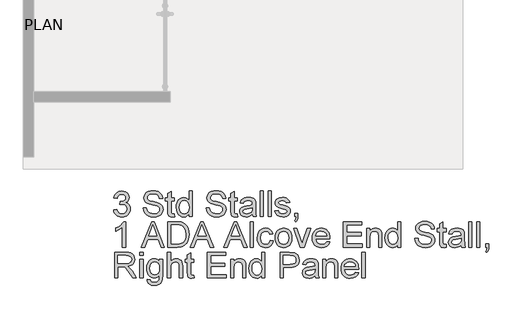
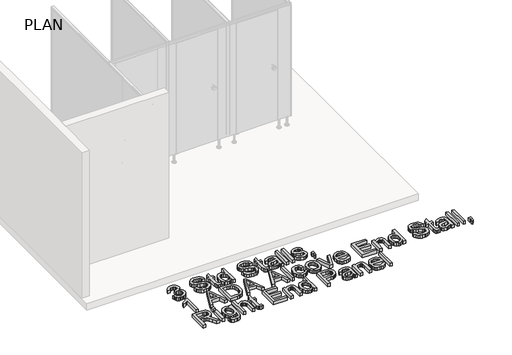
# One storey, part 10 of 21: 1 proxy.
"""IFC4 building model written with IfcOpenShell, lengths in millimetres."""

from ifc_helpers import new_model, si_unit, origin, origin_with_axes, place, context, project, spatial, polyline, outline, extrude, element, save

model = new_model("IFC4")

# Units and contexts
model_context = context("Model", 3, world=origin())
ifc_project = project(units=[si_unit("LENGTHUNIT", "METRE", prefix="MILLI")], contexts=[model_context])

# Site, building, storey
site = spatial("IfcSite", under=ifc_project)
building = spatial("IfcBuilding", under=site)
storey = spatial("IfcBuildingStorey", under=building, Name="PLAN", Elevation=0.0)

# Proxy
placement = place(None, origin())
element("IfcBuildingElementProxy", 1, Name="12\" Arial", ObjectType="12\" Arial", at=placement, inside=storey, context=model_context, shape_type="SweptSolid", body=[
    extrude(outline(polyline([(-22013.422826, 3793.9401982), (-21975.3519393, 3798.6990591), (-21966.8287451, 3774.7746298), (-21954.3460301, 3758.6205279), (-21937.2903472, 3749.4188243), (-21915.0482495, 3746.3515898), (-21888.9488721, 3750.5713609), (-21868.7980707, 3763.2306744), (-21855.9156856, 3782.1174033), (-21851.6215573, 3805.0194211), (-21855.878507, 3826.7596077), (-21868.6493563, 3844.3915589), (-21887.9822285, 3856.0749341), (-21911.9252471, 3859.9693925), (-21938.6194821, 3855.8053892), (-21934.3811217, 3893.876276), (-21928.2838312, 3893.4301328), (-21905.4747599, 3896.1627599), (-21885.0822976, 3904.3606413), (-21870.6941793, 3918.2282592), (-21865.8981398, 3937.970096), (-21869.374339, 3954.412332), (-21879.8029364, 3967.7501549), (-21895.7153773, 3976.5893671), (-21915.6431071, 3979.5357712), (-21935.6080155, 3976.5614832), (-21951.9294211, 3967.6386191), (-21963.8451625, 3952.7671789), (-21970.5930784, 3931.9471627), (-22008.6639652, 3936.7060236), (-21997.4546172, 3970.8917466), (-21977.5082981, 3996.4148557), (-21950.2192054, 4012.3087074), (-21916.9815367, 4017.6066579), (-21893.0478127, 4014.9948613), (-21871.0659653, 4007.1594712), (-21852.532433, 3994.7975866), (-21838.9436546, 3978.6063062), (-21830.6063535, 3959.9519435), (-21827.8272531, 3940.200812), (-21830.4669337, 3921.7974048), (-21838.3859756, 3905.1042133), (-21851.4728429, 3890.8833987), (-21869.6159999, 3879.8971222), (-21845.7845171, 3870.2678648), (-21828.1246819, 3853.872102), (-21817.1941734, 3831.6021204), (-21813.5506706, 3804.3502063), (-21815.372422, 3785.0359235), (-21820.8376762, 3767.2459632), (-21829.9464333, 3750.9803255), (-21842.6986932, 3736.2390105), (-21858.2347008, 3724.007251), (-21875.694701, 3715.2702799), (-21895.0786938, 3710.0280972), (-21916.3866791, 3708.280703), (-21935.6451941, 3709.7724944), (-21953.1934935, 3714.2478684), (-21969.0315772, 3721.7068251), (-21983.1594453, 3732.1493645), (-21995.0054769, 3744.9620396), (-22003.9980508, 3759.5314036), (-22010.1371672, 3775.8574565), (-22013.422826, 3793.9401982)])), origin_with_axes(), (0.0, 0.0, 1.0), 50.8),
    extrude(outline(polyline([(-21661.2671235, 3817.7345025), (-21623.1962368, 3817.7345025), (-21618.8277512, 3796.6077628), (-21610.9272986, 3779.6264371), (-21598.6025926, 3766.1491945), (-21580.9613468, 3755.5347041), (-21559.3977586, 3748.6473684), (-21535.3060255, 3746.3515898), (-21514.095634, 3748.0896894), (-21495.5249232, 3753.3039881), (-21480.4768847, 3761.5576373), (-21469.8345103, 3772.4137886), (-21463.5048536, 3784.8779144), (-21461.394968, 3797.9554871), (-21462.9750585, 3810.6984523), (-21467.7153301, 3821.7126127), (-21477.3445876, 3831.1095039), (-21493.5916359, 3839.0006619), (-21549.0249291, 3853.5374946), (-21585.4134842, 3863.1574574), (-21608.6965826, 3872.3126878), (-21627.6483741, 3885.1207156), (-21641.0791435, 3900.6427812), (-21649.0818373, 3918.5442773), (-21651.7494018, 3938.4905964), (-21648.449801, 3960.788462), (-21638.5509987, 3981.5805942), (-21622.313245, 3999.2032508), (-21599.9967901, 4011.9926893), (-21573.2096086, 4019.7723114), (-21543.5596748, 4022.3655188), (-21511.4373641, 4019.651481), (-21483.3303422, 4011.5093675), (-21460.2424314, 3998.1064821), (-21443.1774539, 3979.6101284), (-21432.3770705, 3957.1728431), (-21428.0829421, 3931.9471627), (-21466.1538289, 3931.9471627), (-21473.1434057, 3954.6632876), (-21487.7174171, 3971.0590503), (-21510.4893098, 3980.9857366), (-21542.0725308, 3984.294632), (-21574.3993238, 3981.0229152), (-21596.5763589, 3971.2077647), (-21609.402976, 3956.7638785), (-21613.6785151, 3939.6059544), (-21610.6484591, 3924.9761752), (-21601.5582914, 3913.2091482), (-21580.0690604, 3902.6876043), (-21539.3956716, 3891.9429888), (-21497.4210318, 3881.737463), (-21472.0280477, 3872.8331882), (-21450.3250398, 3859.0213382), (-21435.1840548, 3841.9749499), (-21426.2890747, 3821.8799164), (-21423.3240813, 3798.9221307), (-21426.7352179, 3775.4531392), (-21436.9686276, 3753.3783453), (-21453.6060513, 3734.3800805), (-21476.2292296, 3720.1406765), (-21503.4346704, 3711.2456964), (-21533.8188815, 3708.280703), (-21571.1183123, 3711.4780627), (-21601.8185416, 3721.0701416), (-21626.2727659, 3737.0941183), (-21644.8341822, 3759.5871715), (-21656.7499236, 3786.9878), (-21661.2671235, 3817.7345025)])), origin_with_axes(), (0.0, 0.0, 1.0), 50.8),
    extrude(outline(polyline([(-21290.0759776, 3744.7900886), (-21285.3171168, 3711.9242059), (-21313.7959246, 3708.280703), (-21332.0692067, 3709.8607935), (-21345.6951637, 3714.6010651), (-21355.3244212, 3721.9066601), (-21361.6076047, 3731.1827208), (-21365.0652145, 3747.1137511), (-21366.2177511, 3774.3842545), (-21366.2177511, 3898.6351368), (-21394.7709162, 3898.6351368), (-21394.7709162, 3936.7060236), (-21366.2177511, 3936.7060236), (-21366.2177511, 3991.0611373), (-21328.1468644, 4013.4426547), (-21328.1468644, 3936.7060236), (-21290.0759776, 3936.7060236), (-21290.0759776, 3898.6351368), (-21328.1468644, 3898.6351368), (-21328.1468644, 3775.4996125), (-21326.13922, 3755.8693115), (-21319.6329649, 3748.9169132), (-21306.6576334, 3746.3515898), (-21290.0759776, 3744.7900886)])), origin_with_axes(), (0.0, 0.0, 1.0), 50.8),
    extrude(outline(polyline([(-21113.9981264, 3713.0395639), (-21113.9981264, 3748.9540918), (-21125.38872, 3731.1594842), (-21139.1866281, 3718.4490502), (-21155.3918505, 3710.8227898), (-21174.0043873, 3708.280703), (-21198.6166208, 3711.9613845), (-21221.1468526, 3723.0034288), (-21240.2194746, 3740.63538), (-21254.4588785, 3764.0857822), (-21263.3259747, 3792.406581), (-21266.2816734, 3824.6497221), (-21263.5583409, 3856.4931933), (-21255.3883435, 3885.2508407), (-21241.7809758, 3909.2868058), (-21222.7455324, 3926.9652303), (-21199.7226841, 3937.8399709), (-21174.1531017, 3941.4648844), (-21155.526623, 3938.8716771), (-21139.056503, 3931.0920549), (-21125.0959386, 3919.1670189), (-21113.9981264, 3904.1375697), (-21113.9981264, 4017.6066579), (-21075.9272396, 4017.6066579), (-21075.9272396, 3713.0395639), (-21113.9981264, 3713.0395639)]), holes=[polyline([(-21228.2107866, 3824.7984365), (-21223.9166583, 3790.361758), (-21211.0342733, 3765.870355), (-21192.314848, 3751.2312811), (-21170.5095989, 3746.3515898), (-21148.7136444, 3751.0082095), (-21130.4682463, 3764.9780686), (-21118.1156564, 3788.5214172), (-21113.9981264, 3821.8985057), (-21118.1900136, 3858.3893019), (-21130.7656751, 3883.6893395), (-21149.4758057, 3898.4678331), (-21172.0711001, 3903.3939977), (-21194.0994208, 3898.6630208), (-21212.1496313, 3884.4700901), (-21224.1954978, 3860.0902229), (-21228.2107866, 3824.7984365)])]), origin_with_axes(), (0.0, 0.0, 1.0), 50.8),
    extrude(outline(polyline([(-20909.36711, 3817.7345025), (-20871.2962233, 3817.7345025), (-20866.9277377, 3796.6077628), (-20859.0272852, 3779.6264371), (-20846.7025791, 3766.1491945), (-20829.0613333, 3755.5347041), (-20807.4977451, 3748.6473684), (-20783.406012, 3746.3515898), (-20762.1956205, 3748.0896894), (-20743.6249097, 3753.3039881), (-20728.5768712, 3761.5576373), (-20717.9344968, 3772.4137886), (-20711.6048401, 3784.8779144), (-20709.4949546, 3797.9554871), (-20711.0750451, 3810.6984523), (-20715.8153166, 3821.7126127), (-20725.4445741, 3831.1095039), (-20741.6916225, 3839.0006619), (-20797.1249156, 3853.5374946), (-20833.5134707, 3863.1574574), (-20856.7965691, 3872.3126878), (-20875.7483607, 3885.1207156), (-20889.17913, 3900.6427812), (-20897.1818238, 3918.5442773), (-20899.8493883, 3938.4905964), (-20896.5497876, 3960.788462), (-20886.6509852, 3981.5805942), (-20870.4132315, 3999.2032508), (-20848.0967767, 4011.9926893), (-20821.3095951, 4019.7723114), (-20791.6596613, 4022.3655188), (-20759.5373506, 4019.651481), (-20731.4303288, 4011.5093675), (-20708.3424179, 3998.1064821), (-20691.2774404, 3979.6101284), (-20680.477057, 3957.1728431), (-20676.1829286, 3931.9471627), (-20714.2538154, 3931.9471627), (-20721.2433923, 3954.6632876), (-20735.8174036, 3971.0590503), (-20758.5892963, 3980.9857366), (-20790.1725173, 3984.294632), (-20822.4993103, 3981.0229152), (-20844.6763454, 3971.2077647), (-20857.5029625, 3956.7638785), (-20861.7785016, 3939.6059544), (-20858.7484457, 3924.9761752), (-20849.6582779, 3913.2091482), (-20828.1690469, 3902.6876043), (-20787.4956581, 3891.9429888), (-20745.5210183, 3881.737463), (-20720.1280343, 3872.8331882), (-20698.4250263, 3859.0213382), (-20683.2840413, 3841.9749499), (-20674.3890612, 3821.8799164), (-20671.4240678, 3798.9221307), (-20674.8352044, 3775.4531392), (-20685.0686141, 3753.3783453), (-20701.7060378, 3734.3800805), (-20724.3292161, 3720.1406765), (-20751.5346569, 3711.2456964), (-20781.918868, 3708.280703), (-20819.2182988, 3711.4780627), (-20849.9185281, 3721.0701416), (-20874.3727525, 3737.0941183), (-20892.9341687, 3759.5871715), (-20904.8499101, 3786.9878), (-20909.36711, 3817.7345025)])), origin_with_axes(), (0.0, 0.0, 1.0), 50.8),
    extrude(outline(polyline([(-20538.1759641, 3744.7900886), (-20533.4171033, 3711.9242059), (-20561.8959112, 3708.280703), (-20580.1691932, 3709.8607935), (-20593.7951503, 3714.6010651), (-20603.4244078, 3721.9066601), (-20609.7075912, 3731.1827208), (-20613.165201, 3747.1137511), (-20614.3177377, 3774.3842545), (-20614.3177377, 3898.6351368), (-20642.8709027, 3898.6351368), (-20642.8709027, 3936.7060236), (-20614.3177377, 3936.7060236), (-20614.3177377, 3991.0611373), (-20576.2468509, 4013.4426547), (-20576.2468509, 3936.7060236), (-20538.1759641, 3936.7060236), (-20538.1759641, 3898.6351368), (-20576.2468509, 3898.6351368), (-20576.2468509, 3775.4996125), (-20574.2392065, 3755.8693115), (-20567.7329514, 3748.9169132), (-20554.7576199, 3746.3515898), (-20538.1759641, 3744.7900886)])), origin_with_axes(), (0.0, 0.0, 1.0), 50.8),
    extrude(outline(polyline([(-20357.339252, 3741.5927289), (-20375.5288823, 3725.9963061), (-20394.2576022, 3715.7907803), (-20413.9529657, 3710.1582224), (-20435.0425268, 3708.280703), (-20466.858114, 3712.797903), (-20490.3271055, 3726.3495028), (-20504.7988757, 3746.9278581), (-20509.6227991, 3772.5253244), (-20507.8010477, 3788.3076403), (-20502.3357934, 3802.6399907), (-20493.9055458, 3814.9089288), (-20483.1888142, 3824.5010077), (-20456.5317578, 3836.9930174), (-20423.5915179, 3842.7185219), (-20384.6655233, 3848.7414552), (-20357.5623236, 3855.8053892), (-20357.339252, 3864.2821101), (-20359.9603434, 3881.2727305), (-20367.8236173, 3892.389132), (-20385.4090953, 3900.6427812), (-20409.9097929, 3903.3939977), (-20432.5887391, 3901.5629516), (-20448.4268229, 3896.0698134), (-20459.2272063, 3885.9107609), (-20466.7930515, 3870.0819718), (-20504.8639382, 3874.8408326), (-20498.255442, 3895.6608488), (-20488.3938183, 3912.019433), (-20474.3588966, 3924.530032), (-20455.2305068, 3933.8060928), (-20431.8358725, 3939.5501865), (-20405.0022177, 3941.4648844), (-20379.2653316, 3939.7732581), (-20358.8635747, 3934.6983792), (-20343.4809288, 3927.0674714), (-20332.8013758, 3917.7077588), (-20325.7188524, 3906.1359194), (-20321.1272953, 3891.8686316), (-20319.2683653, 3858.5566056), (-20319.2683653, 3811.1910688), (-20317.3350781, 3745.0503388), (-20309.7506436, 3713.0395639), (-20347.8215303, 3713.0395639), (-20353.9188208, 3726.2751456), (-20357.339252, 3741.5927289)]), holes=[polyline([(-20357.339252, 3817.7345025), (-20418.7582998, 3806.060422), (-20451.5126467, 3799.8887743), (-20466.3469083, 3789.8505522), (-20471.5519123, 3775.2021837), (-20468.717044, 3763.8812999), (-20460.2124392, 3754.6052391), (-20446.2239908, 3748.4150021), (-20426.9375919, 3746.3515898), (-20406.4893617, 3748.6287791), (-20388.4205619, 3755.4603469), (-20373.7721934, 3765.5264529), (-20363.5852569, 3777.5072569), (-20359.068057, 3789.8505522), (-20357.5623236, 3806.9527084), (-20357.339252, 3817.7345025)])]), origin_with_axes(), (0.0, 0.0, 1.0), 50.8),
    extrude(outline(polyline([(-20266.920896, 3713.0395639), (-20266.920896, 4017.6066579), (-20228.8500092, 4017.6066579), (-20228.8500092, 3713.0395639), (-20266.920896, 3713.0395639)])), origin_with_axes(), (0.0, 0.0, 1.0), 50.8),
    extrude(outline(polyline([(-20171.7436791, 3713.0395639), (-20171.7436791, 4017.6066579), (-20133.6727923, 4017.6066579), (-20133.6727923, 3713.0395639), (-20171.7436791, 3713.0395639)])), origin_with_axes(), (0.0, 0.0, 1.0), 50.8),
    extrude(outline(polyline([(-20090.8430447, 3779.6636157), (-20052.772158, 3784.4224765), (-20046.767814, 3768.1382496), (-20035.1495014, 3756.1667403), (-20017.8428629, 3748.8053774), (-19994.7735414, 3746.3515898), (-19971.9830594, 3748.6008951), (-19955.9590827, 3755.3488111), (-19946.4785396, 3765.126783), (-19943.3183585, 3776.4662561), (-19946.4971289, 3786.1698708), (-19956.0334399, 3793.5684122), (-19995.2196846, 3804.4245635), (-20052.5490864, 3823.0510423), (-20067.0580352, 3832.410755), (-20077.5702844, 3844.8005235), (-20083.955709, 3859.4303028), (-20086.0841839, 3875.5100474), (-20084.3739683, 3890.2606571), (-20079.2433214, 3903.8773195), (-20071.1569758, 3915.8209448), (-20060.579664, 3925.5524435), (-20036.3763952, 3936.8175594), (-20003.6220483, 3941.4648844), (-19978.8425112, 3939.5966598), (-19957.2975123, 3933.9919858), (-19939.9722845, 3925.1992468), (-19927.8520608, 3913.7668272), (-19919.8214831, 3898.8489138), (-19914.7651935, 3879.5996934), (-19952.8360802, 3874.8408326), (-19957.6414143, 3886.8216366), (-19967.1498414, 3895.8467418), (-19981.4543078, 3901.5071837), (-20000.6477603, 3903.3939977), (-20022.5087773, 3901.5908356), (-20037.0827886, 3896.1813492), (-20045.28067, 3888.3738431), (-20048.0132971, 3879.3766218), (-20043.4775079, 3868.2973989), (-20029.2752825, 3859.8950353), (-19996.483757, 3851.7901004), (-19940.6043207, 3833.870015), (-19925.8444164, 3825.3003476), (-19914.6536577, 3813.5704992), (-19907.5990183, 3798.6432912), (-19905.2474718, 3780.4815449), (-19908.0079829, 3761.7063517), (-19916.2895161, 3744.0465166), (-19929.7760534, 3728.8869423), (-19948.1515766, 3717.6125317), (-19970.347201, 3710.6136602), (-19995.2940418, 3708.280703), (-20033.6809467, 3712.7793137), (-20061.6950221, 3726.2751456), (-20080.395858, 3748.6194844), (-20090.8430447, 3779.6636157)])), origin_with_axes(), (0.0, 0.0, 1.0), 50.8),
    extrude(outline(polyline([(-19852.9000025, 3713.0395639), (-19852.9000025, 3751.1104506), (-19814.8291157, 3751.1104506), (-19814.8291157, 3713.0395639), (-19816.5393313, 3691.2621987), (-19821.6699782, 3674.1135693), (-19830.5184851, 3660.9616394), (-19843.3822808, 3651.1743729), (-19852.9000025, 3665.4509554), (-19844.6463532, 3672.3475858), (-19838.9208488, 3681.8838968), (-19833.9389163, 3713.0395639), (-19852.9000025, 3713.0395639)])), origin_with_axes(), (0.0, 0.0, 1.0), 50.8),
    extrude(outline(polyline([(-21870.6570007, 3346.9868995), (-21908.7278874, 3346.9868995), (-21908.7278874, 3584.3350842), (-21944.7911298, 3558.6446713), (-21984.869661, 3539.423335), (-21984.869661, 3575.4122201), (-21954.9687716, 3591.6778577), (-21929.0645818, 3611.0293192), (-21908.6442356, 3631.6076745), (-21895.1948769, 3651.5539936), (-21870.6570007, 3651.5539936), (-21870.6570007, 3346.9868995)])), origin_with_axes(), (0.0, 0.0, 1.0), 50.8),
    extrude(outline(polyline([(-21682.4589257, 3346.9868995), (-21560.8849026, 3651.5539936), (-21528.4651631, 3651.5539936), (-21406.8911399, 3346.9868995), (-21447.1183855, 3346.9868995), (-21481.9919126, 3442.1641164), (-21607.4325102, 3442.1641164), (-21642.2316801, 3346.9868995), (-21682.4589257, 3346.9868995)]), holes=[polyline([(-21593.4533565, 3480.2350032), (-21495.8967092, 3480.2350032), (-21523.3345162, 3555.1127043), (-21544.6750328, 3613.4831068), (-21563.636119, 3561.656138), (-21593.4533565, 3480.2350032)])]), origin_with_axes(), (0.0, 0.0, 1.0), 50.8),
    extrude(outline(polyline([(-21366.2177511, 3346.9868995), (-21366.2177511, 3651.5539936), (-21261.1510265, 3651.5539936), (-21206.7959128, 3647.1669188), (-21182.5182868, 3638.7087872), (-21162.032878, 3625.380259), (-21140.9712009, 3602.1808123), (-21125.9696357, 3573.3302185), (-21116.9910037, 3539.3861564), (-21113.9981264, 3500.906305), (-21116.0243601, 3468.2170206), (-21122.1030612, 3439.4500786), (-21131.3605327, 3414.9586756), (-21142.9230774, 3395.0960084), (-21156.2330164, 3379.4159337), (-21170.7326705, 3367.4723083), (-21187.3793888, 3358.6145068), (-21207.1305202, 3352.1919036), (-21256.0947369, 3346.9868995), (-21366.2177511, 3346.9868995)]), holes=[polyline([(-21328.1468644, 3385.0577863), (-21260.7792405, 3385.0577863), (-21232.9138796, 3386.4333945), (-21211.7778453, 3390.5602191), (-21195.8282257, 3397.1965993), (-21183.522109, 3406.1008741), (-21170.2958219, 3422.5802887), (-21160.359841, 3443.9115107), (-21154.1417201, 3470.1874864), (-21152.0690131, 3501.5011626), (-21156.1307752, 3542.9924806), (-21168.3160615, 3573.6276473), (-21186.3197987, 3594.6707351), (-21207.8369136, 3607.3858164), (-21229.7351093, 3611.9587842), (-21261.8202414, 3613.4831068), (-21328.1468644, 3613.4831068), (-21328.1468644, 3385.0577863)])]), origin_with_axes(), (0.0, 0.0, 1.0), 50.8),
    extrude(outline(polyline([(-21097.1190418, 3346.9868995), (-20975.5450187, 3651.5539936), (-20943.1252792, 3651.5539936), (-20821.551256, 3346.9868995), (-20861.7785016, 3346.9868995), (-20896.6520287, 3442.1641164), (-21022.0926263, 3442.1641164), (-21056.8917962, 3346.9868995), (-21097.1190418, 3346.9868995)]), holes=[polyline([(-21008.1134726, 3480.2350032), (-20910.5568252, 3480.2350032), (-20937.9946323, 3555.1127043), (-20959.3351489, 3613.4831068), (-20978.2962351, 3561.656138), (-21008.1134726, 3480.2350032)])]), origin_with_axes(), (0.0, 0.0, 1.0), 50.8),
    extrude(outline(polyline([(-20697.3747308, 3346.9868995), (-20575.8007077, 3651.5539936), (-20543.3809682, 3651.5539936), (-20421.806945, 3346.9868995), (-20462.0341906, 3346.9868995), (-20496.9077178, 3442.1641164), (-20622.3483153, 3442.1641164), (-20657.1474853, 3346.9868995), (-20697.3747308, 3346.9868995)]), holes=[polyline([(-20608.3691616, 3480.2350032), (-20510.8125143, 3480.2350032), (-20538.2503213, 3555.1127043), (-20559.5908379, 3613.4831068), (-20578.5519241, 3561.656138), (-20608.3691616, 3480.2350032)])]), origin_with_axes(), (0.0, 0.0, 1.0), 50.8),
    extrude(outline(polyline([(-20385.8924171, 3346.9868995), (-20385.8924171, 3651.5539936), (-20347.8215303, 3651.5539936), (-20347.8215303, 3346.9868995), (-20385.8924171, 3346.9868995)])), origin_with_axes(), (0.0, 0.0, 1.0), 50.8),
    extrude(outline(polyline([(-20147.9493749, 3427.8875339), (-20109.8784881, 3423.1286731), (-20120.4929785, 3389.2682628), (-20140.4392976, 3363.6800911), (-20167.8399261, 3347.5910518), (-20200.8173446, 3342.2280387), (-20222.1694795, 3344.098587), (-20241.314135, 3349.710232), (-20258.2513111, 3359.0629737), (-20272.9810078, 3372.156812), (-20284.9037202, 3388.7454387), (-20293.4199434, 3408.5825457), (-20298.5296773, 3431.6681328), (-20300.2329219, 3458.0022002), (-20297.3236964, 3491.8811998), (-20288.59602, 3521.2429994), (-20273.9104729, 3544.9536518), (-20253.1276353, 3561.8792096), (-20228.2644463, 3572.0289675), (-20201.337845, 3575.4122201), (-20169.169061, 3570.764895), (-20143.4507642, 3556.8229199), (-20125.0008838, 3534.3298667), (-20114.637349, 3504.0293074), (-20152.7082357, 3499.2704466), (-20159.6141607, 3515.8799863), (-20170.3680709, 3527.786433), (-20184.3751086, 3534.9526083), (-20201.0404162, 3537.3413333), (-20225.6433549, 3532.6382404), (-20245.1714148, 3518.5289616), (-20257.91438, 3494.2513355), (-20262.1620351, 3459.043201), (-20258.0073266, 3423.3610393), (-20245.5432008, 3398.9997614), (-20226.3683377, 3384.9741344), (-20202.081417, 3380.2989255), (-20182.3674641, 3383.2174456), (-20166.2040676, 3391.973006), (-20154.4463353, 3406.7886782), (-20147.9493749, 3427.8875339)])), origin_with_axes(), (0.0, 0.0, 1.0), 50.8),
    extrude(outline(polyline([(-20086.0841839, 3458.8201294), (-20084.0254189, 3487.7869064), (-20077.8491239, 3512.7476892), (-20067.5552989, 3533.7024778), (-20053.143944, 3550.6512723), (-20038.6349952, 3561.4841869), (-20022.6203131, 3569.2219831), (-20005.0998977, 3573.8646608), (-19986.0737489, 3575.4122201), (-19965.0701634, 3573.5277298), (-19946.0788696, 3567.8742589), (-19929.0998676, 3558.4518073), (-19914.1331573, 3545.2603752), (-19901.9176634, 3528.7461057), (-19893.1923106, 3509.3551419), (-19887.957099, 3487.087484), (-19886.2120284, 3461.9431318), (-19889.2978522, 3423.4818698), (-19898.5553237, 3394.203722), (-19913.714898, 3372.2776424), (-19934.5070303, 3355.872585), (-19959.2029155, 3345.6391753), (-19986.0737489, 3342.2280387), (-20007.3840579, 3344.105558), (-20026.5519501, 3349.738116), (-20043.5774254, 3359.1257126), (-20058.4604838, 3372.2683478), (-20070.5458526, 3388.94295), (-20079.1782589, 3408.9264477), (-20084.3577026, 3432.2188408), (-20086.0841839, 3458.8201294)]), holes=[polyline([(-20048.0132971, 3458.8944866), (-20043.607633, 3424.4392187), (-20030.3906406, 3399.8920478), (-20010.5000894, 3385.197206), (-19986.0737489, 3380.2989255), (-19961.7589443, 3385.22509), (-19941.9055717, 3400.0035836), (-19928.6885793, 3424.8760673), (-19924.2829152, 3460.0842018), (-19928.7164632, 3493.5356475), (-19942.0171075, 3517.7482109), (-19961.8983641, 3532.4430527), (-19986.0737489, 3537.3413333), (-20010.5000894, 3532.461642), (-20030.3906406, 3517.8225681), (-20043.607633, 3493.3311652), (-20048.0132971, 3458.8944866)])]), origin_with_axes(), (0.0, 0.0, 1.0), 50.8),
    extrude(outline(polyline([(-19788.5066667, 3346.9868995), (-19867.176585, 3570.6533592), (-19826.8749822, 3570.6533592), (-19779.2120166, 3436.6616836), (-19764.8610769, 3391.60122), (-19750.8075659, 3434.1335388), (-19702.8471715, 3570.6533592), (-19662.5455687, 3570.6533592), (-19740.2488434, 3346.9868995), (-19788.5066667, 3346.9868995)])), origin_with_axes(), (0.0, 0.0, 1.0), 50.8),
    extrude(outline(polyline([(-19472.6372781, 3413.6109514), (-19435.3099634, 3408.8520905), (-19448.759322, 3380.7264794), (-19470.2206691, 3359.7019809), (-19499.2106827, 3346.5965242), (-19535.2460411, 3342.2280387), (-19558.8683943, 3344.112529), (-19579.9161294, 3349.7659999), (-19598.3892465, 3359.1884514), (-19614.2877454, 3372.3798836), (-19627.0725366, 3388.9731576), (-19636.2045303, 3408.601135), (-19641.6837266, 3431.2638155), (-19643.5101253, 3456.9611994), (-19641.6651373, 3483.5299566), (-19636.1301731, 3506.9478275), (-19626.9052329, 3527.2148121), (-19613.9903166, 3544.3309102), (-19598.1336436, 3557.9289833), (-19580.0834331, 3567.6418926), (-19559.8396852, 3573.4696382), (-19537.4023999, 3575.4122201), (-19515.6877736, 3573.4742855), (-19496.0505017, 3567.6604819), (-19478.490584, 3557.9708092), (-19463.0080206, 3544.4052674), (-19450.3696202, 3527.3263479), (-19441.3421913, 3507.0965419), (-19435.9257339, 3483.7158497), (-19434.1202481, 3457.184271), (-19434.3433197, 3446.9229773), (-19605.4392386, 3446.9229773), (-19598.8493316, 3418.4255801), (-19583.5410429, 3397.4754388), (-19561.4476597, 3384.5930538), (-19534.5024691, 3380.2989255), (-19514.2401319, 3382.2879806), (-19497.1751543, 3388.2551459), (-19483.3075364, 3398.5722075), (-19472.6372781, 3413.6109514)]), holes=[polyline([(-19605.4392386, 3484.993864), (-19472.1911349, 3484.993864), (-19477.340371, 3505.1074868), (-19487.434361, 3519.4956052), (-19509.6299855, 3532.8799013), (-19537.5511143, 3537.3413333), (-19563.2136432, 3533.7814823), (-19584.4333294, 3523.1019294), (-19599.183939, 3506.4552111), (-19605.4392386, 3484.993864)])]), origin_with_axes(), (0.0, 0.0, 1.0), 50.8),
    extrude(outline(polyline([(-19272.3189794, 3346.9868995), (-19272.3189794, 3651.5539936), (-19053.4113806, 3651.5539936), (-19053.4113806, 3613.4831068), (-19234.2480927, 3613.4831068), (-19234.2480927, 3523.0647508), (-19062.9291022, 3523.0647508), (-19062.9291022, 3484.993864), (-19234.2480927, 3484.993864), (-19234.2480927, 3385.0577863), (-19048.6525197, 3385.0577863), (-19048.6525197, 3346.9868995), (-19272.3189794, 3346.9868995)])), origin_with_axes(), (0.0, 0.0, 1.0), 50.8),
    extrude(outline(polyline([(-18996.3050504, 3346.9868995), (-18996.3050504, 3570.6533592), (-18958.2341637, 3570.6533592), (-18958.2341637, 3539.423335), (-18945.0078766, 3555.1684722), (-18929.1233196, 3566.4149988), (-18910.5804927, 3573.1629148), (-18889.3793958, 3575.4122201), (-18870.6134973, 3573.5997633), (-18853.4276893, 3568.162393), (-18839.0953388, 3559.7786186), (-18828.889813, 3549.1269496), (-18817.4759827, 3521.1314636), (-18815.4683383, 3484.3246492), (-18815.4683383, 3346.9868995), (-18853.5392251, 3346.9868995), (-18853.5392251, 3479.1940024), (-18857.9262999, 3512.8778143), (-18863.9957064, 3522.9067417), (-18873.4297763, 3530.6863639), (-18885.522116, 3535.677591), (-18899.5663323, 3537.3413333), (-18921.8641979, 3533.604884), (-18940.8717573, 3522.395536), (-18948.4678101, 3513.244953), (-18953.8935621, 3500.7390013), (-18958.2341637, 3465.6609919), (-18958.2341637, 3346.9868995), (-18996.3050504, 3346.9868995)])), origin_with_axes(), (0.0, 0.0, 1.0), 50.8),
    extrude(outline(polyline([(-18625.1139045, 3346.9868995), (-18625.1139045, 3382.9014275), (-18636.5044982, 3365.1068199), (-18650.3024063, 3352.3963859), (-18666.5076287, 3344.7701255), (-18685.1201655, 3342.2280387), (-18709.7323989, 3345.9087201), (-18732.2626307, 3356.9507644), (-18751.3352527, 3374.5827156), (-18765.5746566, 3398.0331178), (-18774.4417528, 3426.3539166), (-18777.3974516, 3458.5970578), (-18774.6741191, 3490.440529), (-18766.5041217, 3519.1981764), (-18752.8967539, 3543.2341415), (-18733.8613105, 3560.912566), (-18710.8384623, 3571.7873066), (-18685.2688799, 3575.4122201), (-18666.6424011, 3572.8190127), (-18650.1722812, 3565.0393906), (-18636.2117167, 3553.1143545), (-18625.1139045, 3538.0849053), (-18625.1139045, 3651.5539936), (-18587.0430178, 3651.5539936), (-18587.0430178, 3346.9868995), (-18625.1139045, 3346.9868995)]), holes=[polyline([(-18739.3265648, 3458.7457722), (-18735.0324365, 3424.3090936), (-18722.1500514, 3399.8176906), (-18703.4306262, 3385.1786167), (-18681.6253771, 3380.2989255), (-18659.8294226, 3384.9555451), (-18641.5840245, 3398.9254042), (-18629.2314345, 3422.4687529), (-18625.1139045, 3455.8458414), (-18629.3057917, 3492.3366376), (-18641.8814533, 3517.6366751), (-18660.5915839, 3532.4151688), (-18683.1868783, 3537.3413333), (-18705.215199, 3532.6103564), (-18723.2654094, 3518.4174258), (-18735.311276, 3494.0375586), (-18739.3265648, 3458.7457722)])]), origin_with_axes(), (0.0, 0.0, 1.0), 50.8),
    extrude(outline(polyline([(-18420.4828882, 3451.6818381), (-18382.4120014, 3451.6818381), (-18378.0435159, 3430.5550985), (-18370.1430633, 3413.5737728), (-18357.8183573, 3400.0965301), (-18340.1771114, 3389.4820397), (-18318.6135232, 3382.594704), (-18294.5217902, 3380.2989255), (-18273.3113987, 3382.037025), (-18254.7406878, 3387.2513237), (-18239.6926493, 3395.504973), (-18229.050275, 3406.3611243), (-18222.7206183, 3418.8252501), (-18220.6107327, 3431.9028227), (-18222.1908232, 3444.645788), (-18226.9310948, 3455.6599484), (-18236.5603523, 3465.0568396), (-18252.8074006, 3472.9479975), (-18308.2406937, 3487.4848303), (-18344.6292488, 3497.1047931), (-18367.9123473, 3506.2600234), (-18386.8641388, 3519.0680513), (-18400.2949082, 3534.5901169), (-18408.2976019, 3552.491613), (-18410.9651665, 3572.4379321), (-18407.6655657, 3594.7357976), (-18397.7667634, 3615.5279299), (-18381.5290097, 3633.1505864), (-18359.2125548, 3645.940025), (-18332.4253733, 3653.7196471), (-18302.7754395, 3656.3128545), (-18270.6531288, 3653.5988166), (-18242.5461069, 3645.4567031), (-18219.4581961, 3632.0538177), (-18202.3932185, 3613.557464), (-18191.5928351, 3591.1201787), (-18187.2987068, 3565.8944984), (-18225.3695936, 3565.8944984), (-18232.3591704, 3588.6106232), (-18246.9331818, 3605.006386), (-18269.7050745, 3614.9330723), (-18301.2882955, 3618.2419677), (-18333.6150885, 3614.9702509), (-18355.7921236, 3605.1551004), (-18368.6187407, 3590.7112141), (-18372.8942797, 3573.5532901), (-18369.8642238, 3558.9235108), (-18360.774056, 3547.1564838), (-18339.284825, 3536.6349399), (-18298.6114362, 3525.8903244), (-18256.6367965, 3515.6847986), (-18231.2438124, 3506.7805238), (-18209.5408045, 3492.9686738), (-18194.3998195, 3475.9222856), (-18185.5048393, 3455.8272521), (-18182.539846, 3432.8694663), (-18185.9509825, 3409.4004749), (-18196.1843923, 3387.3256809), (-18212.8218159, 3368.3274161), (-18235.4449943, 3354.0880122), (-18262.6504351, 3345.1930321), (-18293.0346462, 3342.2280387), (-18330.334077, 3345.4253983), (-18361.0343062, 3355.0174772), (-18385.4885306, 3371.041454), (-18404.0499468, 3393.5345072), (-18415.9656883, 3420.9351356), (-18420.4828882, 3451.6818381)])), origin_with_axes(), (0.0, 0.0, 1.0), 50.8),
    extrude(outline(polyline([(-18049.2917423, 3378.7374242), (-18044.5328815, 3345.8715415), (-18073.0116893, 3342.2280387), (-18091.2849714, 3343.8081292), (-18104.9109284, 3348.5484008), (-18114.5401859, 3355.8539957), (-18120.8233694, 3365.1300565), (-18124.2809792, 3381.0610868), (-18125.4335158, 3408.3315901), (-18125.4335158, 3532.5824725), (-18153.9866809, 3532.5824725), (-18153.9866809, 3570.6533592), (-18125.4335158, 3570.6533592), (-18125.4335158, 3625.008473), (-18087.3626291, 3647.3899904), (-18087.3626291, 3570.6533592), (-18049.2917423, 3570.6533592), (-18049.2917423, 3532.5824725), (-18087.3626291, 3532.5824725), (-18087.3626291, 3409.4469481), (-18085.3549846, 3389.8166471), (-18078.8487296, 3382.8642489), (-18065.8733981, 3380.2989255), (-18049.2917423, 3378.7374242)])), origin_with_axes(), (0.0, 0.0, 1.0), 50.8),
    extrude(outline(polyline([(-17868.4550302, 3375.5400646), (-17886.6446604, 3359.9436418), (-17905.3733803, 3349.738116), (-17925.0687439, 3344.105558), (-17946.1583049, 3342.2280387), (-17977.9738922, 3346.7452386), (-18001.4428836, 3360.2968385), (-18015.9146538, 3380.8751938), (-18020.7385772, 3406.4726601), (-18018.9168258, 3422.2549759), (-18013.4515716, 3436.5873264), (-18005.0213239, 3448.8562645), (-17994.3045924, 3458.4483434), (-17967.6475359, 3470.9403531), (-17934.707296, 3476.6658576), (-17895.7813015, 3482.6887908), (-17868.6781018, 3489.7527249), (-17868.4550302, 3498.2294458), (-17871.0761215, 3515.2200661), (-17878.9393955, 3526.3364676), (-17896.5248735, 3534.5901169), (-17921.0255711, 3537.3413333), (-17943.7045173, 3535.5102873), (-17959.5426011, 3530.0171491), (-17970.3429845, 3519.8580965), (-17977.9088296, 3504.0293074), (-18015.9797164, 3508.7881683), (-18009.3712202, 3529.6081845), (-17999.5095964, 3545.9667686), (-17985.4746748, 3558.4773676), (-17966.3462849, 3567.7534284), (-17942.9516506, 3573.4975222), (-17916.1179958, 3575.4122201), (-17890.3811098, 3573.7205938), (-17869.9793528, 3568.6457148), (-17854.5967069, 3561.0148071), (-17843.917154, 3551.6550945), (-17836.8346306, 3540.0832551), (-17832.2430735, 3525.8159672), (-17830.3841434, 3492.5039413), (-17830.3841434, 3445.1384045), (-17828.4508562, 3378.9976744), (-17820.8664217, 3346.9868995), (-17858.9373085, 3346.9868995), (-17865.034599, 3360.2224813), (-17868.4550302, 3375.5400646)]), holes=[polyline([(-17868.4550302, 3451.6818381), (-17929.874078, 3440.0077576), (-17962.6284249, 3433.83611), (-17977.4626864, 3423.7978879), (-17982.6676905, 3409.1495193), (-17979.8328222, 3397.8286355), (-17971.3282174, 3388.5525747), (-17957.339769, 3382.3623378), (-17938.0533701, 3380.2989255), (-17917.6051399, 3382.5761147), (-17899.5363401, 3389.4076825), (-17884.8879716, 3399.4737886), (-17874.7010351, 3411.4545925), (-17870.1838351, 3423.7978879), (-17868.6781018, 3440.900044), (-17868.4550302, 3451.6818381)])]), origin_with_axes(), (0.0, 0.0, 1.0), 50.8),
    extrude(outline(polyline([(-17778.0366741, 3346.9868995), (-17778.0366741, 3651.5539936), (-17739.9657874, 3651.5539936), (-17739.9657874, 3346.9868995), (-17778.0366741, 3346.9868995)])), origin_with_axes(), (0.0, 0.0, 1.0), 50.8),
    extrude(outline(polyline([(-17682.8594572, 3346.9868995), (-17682.8594572, 3651.5539936), (-17644.7885705, 3651.5539936), (-17644.7885705, 3346.9868995), (-17682.8594572, 3346.9868995)])), origin_with_axes(), (0.0, 0.0, 1.0), 50.8),
    extrude(outline(polyline([(-17578.1645187, 3346.9868995), (-17578.1645187, 3385.0577863), (-17540.0936319, 3385.0577863), (-17540.0936319, 3346.9868995), (-17541.8038475, 3325.2095344), (-17546.9344944, 3308.060905), (-17555.7830013, 3294.9089751), (-17568.646797, 3285.1217086), (-17578.1645187, 3299.3982911), (-17569.9108694, 3306.2949215), (-17564.1853649, 3315.8312324), (-17559.2034325, 3346.9868995), (-17578.1645187, 3346.9868995)])), origin_with_axes(), (0.0, 0.0, 1.0), 50.8),
    extrude(outline(polyline([(-21999.1462435, 2980.9342352), (-21999.1462435, 3285.5013293), (-21867.9057843, 3285.5013293), (-21832.6325872, 3283.4472116), (-21806.9700583, 3277.2848586), (-21788.2134544, 3265.9082069), (-21773.6580324, 3248.2111931), (-21764.316909, 3226.2665243), (-21761.2032013, 3202.1469073), (-21766.3617321, 3172.1437768), (-21781.8373245, 3147.2712932), (-21793.5602019, 3137.1354772), (-21808.0947109, 3129.0351897), (-21845.5986241, 3118.9411997), (-21823.9606786, 3102.6569727), (-21793.1024404, 3063.470728), (-21742.3164723, 2980.9342352), (-21786.5590067, 2980.9342352), (-21826.1913947, 3044.0634986), (-21854.8189169, 3085.8522454), (-21874.9325397, 3105.5940822), (-21893.0385181, 3112.8439092), (-21915.1226067, 3114.1823389), (-21961.0753567, 3114.1823389), (-21961.0753567, 2980.9342352), (-21999.1462435, 2980.9342352)]), holes=[polyline([(-21961.0753567, 3152.2532256), (-21875.8620047, 3152.2532256), (-21851.3891911, 3153.6009499), (-21832.4002209, 3157.6441227), (-21818.1050491, 3164.6522888), (-21807.7136303, 3174.8949932), (-21801.3839736, 3187.2847618), (-21799.274088, 3200.7341205), (-21803.2986715, 3219.3048313), (-21815.372422, 3234.269218), (-21836.1459649, 3244.1401364), (-21866.2699258, 3247.4304425), (-21961.0753567, 3247.4304425), (-21961.0753567, 3152.2532256)])]), origin_with_axes(), (0.0, 0.0, 1.0), 50.8),
    extrude(outline(polyline([(-21699.3380103, 2980.9342352), (-21699.3380103, 3204.6006949), (-21661.2671235, 3204.6006949), (-21661.2671235, 2980.9342352), (-21699.3380103, 2980.9342352)])), origin_with_axes(), (0.0, 0.0, 1.0), 50.8),
    extrude(outline(polyline([(-21699.3380103, 3247.4304425), (-21699.3380103, 3285.5013293), (-21661.2671235, 3285.5013293), (-21661.2671235, 3247.4304425), (-21699.3380103, 3247.4304425)])), origin_with_axes(), (0.0, 0.0, 1.0), 50.8),
    extrude(outline(polyline([(-21613.6785151, 2961.8987918), (-21575.6076283, 2957.139931), (-21571.4064465, 2945.2427789), (-21563.264333, 2937.0634868), (-21547.2589455, 2930.7059461), (-21526.3088042, 2928.5867659), (-21503.9644654, 2930.9847856), (-21487.3456311, 2938.1788448), (-21475.820265, 2949.7042109), (-21468.7563309, 2965.0961514), (-21466.1538289, 3009.4874003), (-21478.8224369, 2996.9953906), (-21492.9595997, 2988.0725265), (-21508.5653172, 2982.718808), (-21525.6395894, 2980.9342352), (-21546.5130499, 2983.0115895), (-21564.8908968, 2989.2436524), (-21580.7731301, 2999.6304239), (-21594.1597499, 3014.1719039), (-21604.7812113, 3031.6179621), (-21612.3679694, 3050.7184681), (-21616.9200243, 3071.4734217), (-21618.4373759, 3093.8828231), (-21615.7140434, 3124.6202309), (-21607.544046, 3152.8852618), (-21594.2155178, 3176.8375751), (-21576.0165929, 3194.63683), (-21553.570013, 3205.6788743), (-21527.4985195, 3209.3595558), (-21509.6946172, 3207.2775541), (-21493.535868, 3201.0315493), (-21479.0222719, 3190.6215412), (-21466.1538289, 3176.0475298), (-21466.1538289, 3204.6006949), (-21428.0829421, 3204.6006949), (-21428.0829421, 3011.4950447), (-21430.6854441, 2966.9086082), (-21438.4929502, 2937.5468086), (-21451.9423089, 2918.0745167), (-21471.4703687, 2903.1566033), (-21496.6495758, 2893.6760602), (-21527.0523763, 2890.5158791), (-21562.4742877, 2894.9680165), (-21590.3675326, 2908.3244287), (-21600.8728109, 2918.3510325), (-21608.2597341, 2930.6222943), (-21612.5283021, 2945.138214), (-21613.6785151, 2961.8987918)]), holes=[polyline([(-21580.3664892, 3096.4853251), (-21576.3047271, 3061.5653247), (-21564.1194408, 3037.5572435), (-21545.7996855, 3023.6431524), (-21523.3345162, 3019.005122), (-21501.0366507, 3023.6152684), (-21482.6239488, 3037.4457077), (-21470.2713589, 3061.1470655), (-21466.1538289, 3095.3699671), (-21470.3921893, 3128.3752695), (-21483.1072706, 3152.1416898), (-21501.7895173, 3166.5019242), (-21523.9293738, 3171.288669), (-21545.6695604, 3166.5762814), (-21563.8963692, 3152.4391186), (-21576.2489592, 3129.025895), (-21580.3664892, 3096.4853251)])]), origin_with_axes(), (0.0, 0.0, 1.0), 50.8),
    extrude(outline(polyline([(-21370.976612, 2980.9342352), (-21370.976612, 3285.5013293), (-21332.9057252, 3285.5013293), (-21332.9057252, 3173.519385), (-21318.9219242, 3189.1994597), (-21303.2186128, 3200.3995131), (-21285.7957913, 3207.1195451), (-21266.6534594, 3209.3595558), (-21243.6584951, 3206.9150628), (-21223.898069, 3199.5815839), (-21208.3388248, 3187.9353873), (-21197.947406, 3172.5527414), (-21192.0917764, 3151.4167071), (-21190.1398999, 3122.5103453), (-21190.1398999, 2980.9342352), (-21228.2107866, 2980.9342352), (-21228.2107866, 3118.5694137), (-21231.2408426, 3142.4008965), (-21240.3310104, 3158.7223021), (-21254.9793789, 3168.1470773), (-21274.6840371, 3171.288669), (-21290.7730764, 3169.1694888), (-21305.8768828, 3162.8119481), (-21318.3874818, 3152.8294939), (-21326.696899, 3139.8355731), (-21331.3535187, 3122.5661132), (-21332.9057252, 3099.7570419), (-21332.9057252, 2980.9342352), (-21370.976612, 2980.9342352)])), origin_with_axes(), (0.0, 0.0, 1.0), 50.8),
    extrude(outline(polyline([(-21056.8917962, 3012.6847599), (-21052.1329354, 2979.8188772), (-21080.6117432, 2976.1753744), (-21098.8850253, 2977.7554649), (-21112.5109823, 2982.4957364), (-21122.1402398, 2989.8013314), (-21128.4234233, 2999.0773922), (-21131.8810331, 3015.0084224), (-21133.0335697, 3042.2789258), (-21133.0335697, 3166.5298081), (-21161.5867348, 3166.5298081), (-21161.5867348, 3204.6006949), (-21133.0335697, 3204.6006949), (-21133.0335697, 3258.9558086), (-21094.962683, 3281.337326), (-21094.962683, 3204.6006949), (-21056.8917962, 3204.6006949), (-21056.8917962, 3166.5298081), (-21094.962683, 3166.5298081), (-21094.962683, 3043.3942838), (-21092.9550386, 3023.7639828), (-21086.4487835, 3016.8115845), (-21073.473452, 3014.2462611), (-21056.8917962, 3012.6847599)])), origin_with_axes(), (0.0, 0.0, 1.0), 50.8),
    extrude(outline(polyline([(-20895.0905275, 2980.9342352), (-20895.0905275, 3285.5013293), (-20676.1829286, 3285.5013293), (-20676.1829286, 3247.4304425), (-20857.0196407, 3247.4304425), (-20857.0196407, 3157.0120865), (-20685.7006503, 3157.0120865), (-20685.7006503, 3118.9411997), (-20857.0196407, 3118.9411997), (-20857.0196407, 3019.005122), (-20671.4240678, 3019.005122), (-20671.4240678, 2980.9342352), (-20895.0905275, 2980.9342352)])), origin_with_axes(), (0.0, 0.0, 1.0), 50.8),
    extrude(outline(polyline([(-20619.0765985, 2980.9342352), (-20619.0765985, 3204.6006949), (-20581.0057117, 3204.6006949), (-20581.0057117, 3173.3706706), (-20567.7794247, 3189.1158079), (-20551.8948677, 3200.3623345), (-20533.3520407, 3207.1102504), (-20512.1509439, 3209.3595558), (-20493.3850454, 3207.547099), (-20476.1992374, 3202.1097287), (-20461.8668869, 3193.7259543), (-20451.6613611, 3183.0742853), (-20440.2475308, 3155.0787992), (-20438.2398864, 3118.2719849), (-20438.2398864, 2980.9342352), (-20476.3107732, 2980.9342352), (-20476.3107732, 3113.141338), (-20480.697848, 3146.82515), (-20486.7672545, 3156.8540774), (-20496.2013243, 3164.6336995), (-20508.2936641, 3169.6249266), (-20522.3378804, 3171.288669), (-20544.6357459, 3167.5522197), (-20563.6433054, 3156.3428717), (-20571.2393582, 3147.1922886), (-20576.6651102, 3134.6863369), (-20581.0057117, 3099.6083275), (-20581.0057117, 2980.9342352), (-20619.0765985, 2980.9342352)])), origin_with_axes(), (0.0, 0.0, 1.0), 50.8),
    extrude(outline(polyline([(-20247.8854526, 2980.9342352), (-20247.8854526, 3016.8487631), (-20259.2760463, 2999.0541555), (-20273.0739543, 2986.3437216), (-20289.2791768, 2978.7174612), (-20307.8917136, 2976.1753744), (-20332.503947, 2979.8560558), (-20355.0341788, 2990.8981001), (-20374.1068008, 3008.5300513), (-20388.3462047, 3031.9804535), (-20397.2133009, 3060.3012523), (-20400.1689996, 3092.5443935), (-20397.4456672, 3124.3878647), (-20389.2756697, 3153.145512), (-20375.668302, 3177.1814771), (-20356.6328586, 3194.8599016), (-20333.6100104, 3205.7346422), (-20308.040428, 3209.3595558), (-20289.4139492, 3206.7663484), (-20272.9438292, 3198.9867263), (-20258.9832648, 3187.0616902), (-20247.8854526, 3172.032241), (-20247.8854526, 3285.5013293), (-20209.8145658, 3285.5013293), (-20209.8145658, 2980.9342352), (-20247.8854526, 2980.9342352)]), holes=[polyline([(-20362.0981129, 3092.6931079), (-20357.8039845, 3058.2564293), (-20344.9215995, 3033.7650263), (-20326.2021742, 3019.1259524), (-20304.3969251, 3014.2462611), (-20282.6009707, 3018.9028808), (-20264.3555726, 3032.8727399), (-20252.0029826, 3056.4160886), (-20247.8854526, 3089.793177), (-20252.0773398, 3126.2839733), (-20264.6530014, 3151.5840108), (-20283.363132, 3166.3625044), (-20305.9584264, 3171.288669), (-20327.9867471, 3166.5576921), (-20346.0369575, 3152.3647614), (-20358.082824, 3127.9848942), (-20362.0981129, 3092.6931079)])]), origin_with_axes(), (0.0, 0.0, 1.0), 50.8),
    extrude(outline(polyline([(-20028.9778537, 2980.9342352), (-20028.9778537, 3285.5013293), (-19916.1036231, 3285.5013293), (-19870.5970163, 3282.6013984), (-19850.3067951, 3277.1826174), (-19833.6043089, 3268.3619945), (-19820.1549502, 3255.7398597), (-19809.6241117, 3238.916543), (-19802.8204278, 3219.0724651), (-19800.5525332, 3197.3880464), (-19802.0838268, 3178.6918578), (-19806.6777076, 3161.4921078), (-19814.3341756, 3145.7887965), (-19825.0532308, 3131.5819238), (-19839.7689856, 3119.8056022), (-19859.4155522, 3111.3939438), (-19883.9929307, 3106.3469488), (-19913.5011211, 3104.6646172), (-19990.906967, 3104.6646172), (-19990.906967, 2980.9342352), (-20028.9778537, 2980.9342352)]), holes=[polyline([(-19990.906967, 3142.7355039), (-19911.270405, 3142.7355039), (-19877.5122359, 3146.2302924), (-19855.2050757, 3156.7146577), (-19842.7688339, 3173.5379743), (-19838.62342, 3196.0496168), (-19841.0679129, 3213.151773), (-19848.4013918, 3227.5770699), (-19859.712981, 3238.4332212), (-19874.0918047, 3244.8279405), (-19912.1626914, 3247.4304425), (-19990.906967, 3247.4304425), (-19990.906967, 3142.7355039)])]), origin_with_axes(), (0.0, 0.0, 1.0), 50.8),
    extrude(outline(polyline([(-19610.1980994, 3009.4874003), (-19628.3877296, 2993.8909774), (-19647.1164495, 2983.6854516), (-19666.8118131, 2978.0528937), (-19687.9013741, 2976.1753744), (-19719.7169614, 2980.6925743), (-19743.1859529, 2994.2441741), (-19757.657723, 3014.8225294), (-19762.4816464, 3040.4199958), (-19760.659895, 3056.2023116), (-19755.1946408, 3070.534662), (-19746.7643931, 3082.8036002), (-19736.0476616, 3092.395679), (-19709.3906051, 3104.8876888), (-19676.4503652, 3110.6131932), (-19637.5243707, 3116.6361265), (-19610.421171, 3123.7000605), (-19610.1980994, 3132.1767814), (-19612.8191907, 3149.1674018), (-19620.6824647, 3160.2838033), (-19638.2679427, 3168.5374526), (-19662.7686403, 3171.288669), (-19685.4475865, 3169.4576229), (-19701.2856703, 3163.9644847), (-19712.0860537, 3153.8054322), (-19719.6518988, 3137.9766431), (-19757.7227856, 3142.7355039), (-19751.1142894, 3163.5555201), (-19741.2526656, 3179.9141043), (-19727.217744, 3192.4247033), (-19708.0893541, 3201.7007641), (-19684.6947199, 3207.4448578), (-19657.861065, 3209.3595558), (-19632.124179, 3207.6679294), (-19611.722422, 3202.5930505), (-19596.3397761, 3194.9621428), (-19585.6602232, 3185.6024301), (-19578.5776998, 3174.0305908), (-19573.9861427, 3159.7633029), (-19572.1272126, 3126.451277), (-19572.1272126, 3079.0857401), (-19570.1939254, 3012.9450101), (-19562.609491, 2980.9342352), (-19600.6803777, 2980.9342352), (-19606.7776682, 2994.1698169), (-19610.1980994, 3009.4874003)]), holes=[polyline([(-19610.1980994, 3085.6291738), (-19671.6171472, 3073.9550933), (-19704.3714941, 3067.7834456), (-19719.2057556, 3057.7452235), (-19724.4107597, 3043.096855), (-19721.5758914, 3031.7759712), (-19713.0712866, 3022.4999104), (-19699.0828382, 3016.3096734), (-19679.7964393, 3014.2462611), (-19659.3482091, 3016.5234504), (-19641.2794093, 3023.3550182), (-19626.6310408, 3033.4211242), (-19616.4441043, 3045.4019282), (-19611.9269043, 3057.7452235), (-19610.421171, 3074.8473797), (-19610.1980994, 3085.6291738)])]), origin_with_axes(), (0.0, 0.0, 1.0), 50.8),
    extrude(outline(polyline([(-19519.7797433, 2980.9342352), (-19519.7797433, 3204.6006949), (-19481.7088566, 3204.6006949), (-19481.7088566, 3173.3706706), (-19468.4825695, 3189.1158079), (-19452.5980125, 3200.3623345), (-19434.0551856, 3207.1102504), (-19412.8540887, 3209.3595558), (-19394.0881902, 3207.547099), (-19376.9023822, 3202.1097287), (-19362.5700318, 3193.7259543), (-19352.364506, 3183.0742853), (-19340.9506757, 3155.0787992), (-19338.9430312, 3118.2719849), (-19338.9430312, 2980.9342352), (-19377.013918, 2980.9342352), (-19377.013918, 3113.141338), (-19381.4009928, 3146.82515), (-19387.4703994, 3156.8540774), (-19396.9044692, 3164.6336995), (-19408.996809, 3169.6249266), (-19423.0410252, 3171.288669), (-19445.3388908, 3167.5522197), (-19464.3464502, 3156.3428717), (-19471.942503, 3147.1922886), (-19477.368255, 3134.6863369), (-19481.7088566, 3099.6083275), (-19481.7088566, 2980.9342352), (-19519.7797433, 2980.9342352)])), origin_with_axes(), (0.0, 0.0, 1.0), 50.8),
    extrude(outline(polyline([(-19129.9992973, 3047.558287), (-19092.6719825, 3042.7994262), (-19106.1213412, 3014.673815), (-19127.5826883, 2993.6493165), (-19156.5727019, 2980.5438599), (-19192.6080603, 2976.1753744), (-19216.2304135, 2978.0598647), (-19237.2781486, 2983.7133356), (-19255.7512656, 2993.1357871), (-19271.6497646, 3006.3272192), (-19284.4345558, 3022.9204933), (-19293.5665495, 3042.5484706), (-19299.0457457, 3065.2111512), (-19300.8721445, 3090.908535), (-19299.0271564, 3117.4772923), (-19293.4921923, 3140.8951632), (-19284.2672521, 3161.1621477), (-19271.3523358, 3178.2782459), (-19255.4956628, 3191.8763189), (-19237.4454523, 3201.5892283), (-19217.2017044, 3207.4169739), (-19194.7644191, 3209.3595558), (-19173.0497928, 3207.4216212), (-19153.4125208, 3201.6078176), (-19135.8526032, 3191.9181449), (-19120.3700398, 3178.3526031), (-19107.7316393, 3161.2736835), (-19098.7042104, 3141.0438776), (-19093.2877531, 3117.6631853), (-19091.4822673, 3091.1316066), (-19091.7053389, 3080.8703129), (-19262.8012577, 3080.8703129), (-19256.2113508, 3052.3729158), (-19240.9030621, 3031.4227745), (-19218.8096789, 3018.5403895), (-19191.8644883, 3014.2462611), (-19171.6021511, 3016.2353162), (-19154.5371735, 3022.2024816), (-19140.6695556, 3032.5195432), (-19129.9992973, 3047.558287)]), holes=[polyline([(-19262.8012577, 3118.9411997), (-19129.5531541, 3118.9411997), (-19134.7023902, 3139.0548225), (-19144.7963802, 3153.4429408), (-19166.9920046, 3166.8272369), (-19194.9131335, 3171.288669), (-19220.5756624, 3167.728818), (-19241.7953485, 3157.0492651), (-19256.5459582, 3140.4025468), (-19262.8012577, 3118.9411997)])]), origin_with_axes(), (0.0, 0.0, 1.0), 50.8),
    extrude(outline(polyline([(-19053.4113806, 2980.9342352), (-19053.4113806, 3285.5013293), (-19015.3404938, 3285.5013293), (-19015.3404938, 2980.9342352), (-19053.4113806, 2980.9342352)])), origin_with_axes(), (0.0, 0.0, 1.0), 50.8),
])

save(model, "model.ifc")
